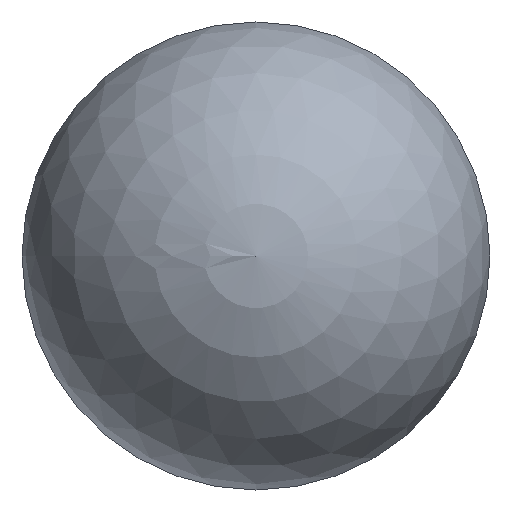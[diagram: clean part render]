
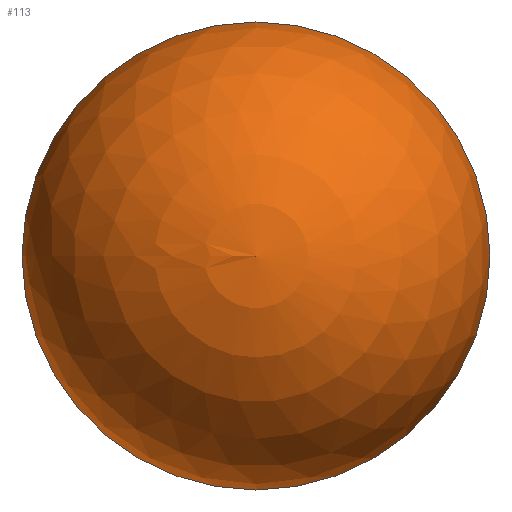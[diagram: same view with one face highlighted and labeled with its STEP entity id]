
A CAD part, left-side view. The second image highlights one B-rep face of the part: STEP entity #113.
In plain terms, the highlighted spherical face has radius 3 mm.
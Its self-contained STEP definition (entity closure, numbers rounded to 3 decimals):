
#111=SPHERICAL_SURFACE('',#186,3.);
#113=ADVANCED_FACE('',(#128),#111,.T.);
#128=FACE_OUTER_BOUND('',#134,.T.);
#134=EDGE_LOOP('',(#148));
#148=ORIENTED_EDGE('',*,*,#169,.T.);
#162=VERTEX_POINT('',#241);
#169=EDGE_CURVE('',#162,#162,#176,.T.);
#176=CIRCLE('',#185,3.);
#185=AXIS2_PLACEMENT_3D('',#240,#206,#207);
#186=AXIS2_PLACEMENT_3D('',#242,#208,#209);
#206=DIRECTION('',(-1.,0.,0.));
#207=DIRECTION('',(0.,0.,1.));
#208=DIRECTION('',(-1.,0.,0.));
#209=DIRECTION('',(0.,1.,0.));
#240=CARTESIAN_POINT('',(7896.912,6103.288,0.));
#241=CARTESIAN_POINT('',(7896.912,6103.288,3.));
#242=CARTESIAN_POINT('',(7896.912,6103.288,0.));
